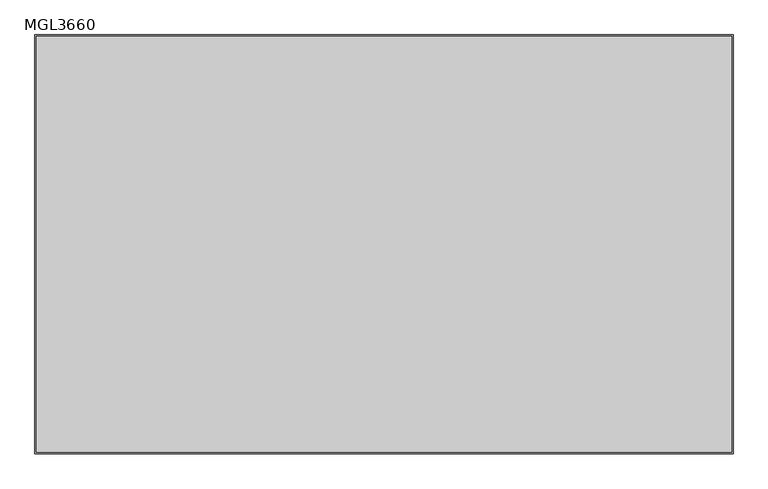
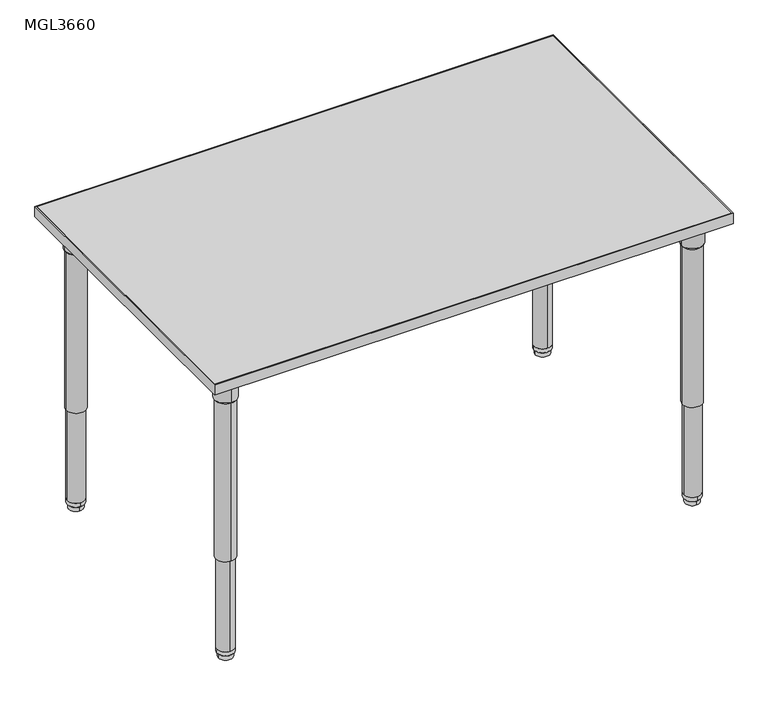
"""IFC4 building model written with IfcOpenShell, lengths in millimetres: furniture geometry, ERG-Mingle-Table-Rectangle : MGL3660."""

from ifc_helpers import new_model, si_unit, point, frame, frame_2d, origin, place, context, project, spatial, polyline, circle_curve, trimmed, segment, composite_curve, outline, extrude, source, transform, mapped, element, save
from ifc_brep_helpers import plane_surface, cylinder_surface, revolved_surface, advanced_brep


def mgl3660_9fdf70c8(model_context):
    return source(origin(), model_context, "Body", "SolidModel", [
        advanced_brep(
        [(655.7646842, -381.0, 802.9933069), (715.8353158, -381.0, 802.9933069), (685.8, -381.0, 802.9933069), (653.656117, -381.0, 806.7580481), (717.943883, -381.0, 806.7580481), (652.7206351, -381.0, 860.1631458), (718.8793649, -381.0, 860.1631458), (649.271083, -381.0, 866.5198315), (722.328917, -381.0, 866.5198315), (649.271083, -381.0, 879.2198315), (722.328917, -381.0, 879.2198315), (685.8, -381.0, 879.2198315)],
        [
            (0, 1, circle_curve(frame((685.8, -381.0, 802.9933069), z_axis=(0.0, 0.0, -1.0), x_axis=(1.0, 0.0, 0.0)), 30.0353158)),
            (1, 2),
            (2, 0),
            (1, 0, circle_curve(frame((685.8, -381.0, 802.9933069), z_axis=(0.0, 0.0, -1.0), x_axis=(1.0, 0.0, 0.0)), 30.0353158)),
            (3, 4, circle_curve(frame((685.8, -381.0, 806.7580481), z_axis=(0.0, 0.0, -1.0), x_axis=(1.0, 0.0, 0.0)), 32.143883)),
            (4, 1),
            (0, 3),
            (4, 3, circle_curve(frame((685.8, -381.0, 806.7580481), z_axis=(0.0, 0.0, -1.0), x_axis=(1.0, 0.0, 0.0)), 32.143883)),
            (5, 6, circle_curve(frame((685.8, -381.0, 860.1631458), z_axis=(0.0, 0.0, -1.0), x_axis=(1.0, 0.0, 0.0)), 33.0793649)),
            (6, 4),
            (3, 5),
            (6, 5, circle_curve(frame((685.8, -381.0, 860.1631458), z_axis=(0.0, 0.0, -1.0), x_axis=(1.0, 0.0, 0.0)), 33.0793649)),
            (7, 8, circle_curve(frame((685.8, -381.0, 866.5198315), z_axis=(0.0, 0.0, -1.0), x_axis=(1.0, 0.0, 0.0)), 36.528917)),
            (8, 6),
            (5, 7),
            (8, 7, circle_curve(frame((685.8, -381.0, 866.5198315), z_axis=(0.0, 0.0, -1.0), x_axis=(1.0, 0.0, 0.0)), 36.528917)),
            (9, 10, circle_curve(frame((685.8, -381.0, 879.2198315), z_axis=(0.0, 0.0, -1.0), x_axis=(1.0, 0.0, 0.0)), 36.528917)),
            (10, 8),
            (7, 9),
            (10, 9, circle_curve(frame((685.8, -381.0, 879.2198315), z_axis=(0.0, 0.0, -1.0), x_axis=(1.0, 0.0, 0.0)), 36.528917)),
            (11, 10),
            (9, 11),
        ],
        [
            plane_surface(frame((685.8, -381.0, 802.9933069), z_axis=(0.0, 0.0, -1.0), x_axis=(1.0, 0.0, 0.0))),
            revolved_surface(polyline([(715.8353158, -381.0, 802.9933069), (717.943883, -381.0, 806.7580481)]), (685.8, -381.0, 879.2198315), (0.0, 0.0, 1.0)),
            revolved_surface(polyline([(717.943883, -381.0, 806.7580481), (718.8793649, -381.0, 860.1631458)]), (685.8, -381.0, 879.2198315), (0.0, 0.0, 1.0)),
            revolved_surface(polyline([(718.8793649, -381.0, 860.1631458), (722.328917, -381.0, 866.5198315)]), (685.8, -381.0, 879.2198315), (0.0, 0.0, 1.0)),
            cylinder_surface(frame((685.8, -381.0, 879.2198315), z_axis=(0.0, 0.0, 1.0), x_axis=(1.0, 0.0, 0.0)), 36.528917),
            plane_surface(frame((685.8, -381.0, 879.2198315), z_axis=(0.0, 0.0, 1.0), x_axis=(1.0, 0.0, 0.0))),
        ],
        [
            (0, [[1, 2, 3]]),
            (0, [[4, -3, -2]]),
            (1, [[5, 6, -1, 7]]),
            (1, [[8, -7, -4, -6]]),
            (2, [[9, 10, -5, 11]]),
            (2, [[12, -11, -8, -10]]),
            (3, [[13, 14, -9, 15]]),
            (3, [[16, -15, -12, -14]]),
            (4, [[17, 18, -13, 19]]),
            (4, [[20, -19, -16, -18]]),
            (5, [[21, -17, 22]]),
            (5, [[-22, -20, -21]]),
        ],
    ),
        extrude(outline(composite_curve([segment(polyline([(731.673768, -298.4223426), (731.673768, -412.1483754)]), True, "CONTINUOUS"), segment(trimmed(circle_curve(frame_2d((715.798768, -412.1483754)), 15.875), [point((731.673768, -412.1483754))], [point((715.798768, -428.0233754))], False, "CARTESIAN"), True, "CONTINUOUS"), segment(polyline([(715.798768, -428.0233754), (602.0864205, -428.0233754)]), True, "CONTINUOUS"), segment(trimmed(circle_curve(frame_2d((602.0864205, -415.3233754)), 12.7), [point((602.0864205, -428.0233754))], [point((589.4491923, -414.0622394))], False, "CARTESIAN"), True, "CONTINUOUS"), segment(trimmed(circle_curve(frame_2d((731.9486077, -428.2830117)), 143.2072406), [point((589.4491923, -414.0622394))], [point((717.7111525, -285.7852622))], False, "CARTESIAN"), True, "CONTINUOUS"), segment(trimmed(circle_curve(frame_2d((718.973768, -298.4223426)), 12.7), [point((717.7111525, -285.7852622))], [point((731.673768, -298.4223426))], False, "CARTESIAN"), True, "CONTINUOUS")], self_intersect=False)), frame((0.0, 0.0, 879.2198315), z_axis=(0.0, 0.0, 1.0), x_axis=(1.0, 0.0, 0.0)), (0.0, 0.0, 1.0), 3.4301685),
        extrude(outline(composite_curve([segment(trimmed(circle_curve(frame_2d((685.8, -381.0)), 28.575), [point((714.375, -381.0))], [point((657.225, -381.0))], False, "CARTESIAN"), True, "CONTINUOUS"), segment(trimmed(circle_curve(frame_2d((685.8, -381.0)), 28.575), [point((657.225, -381.0))], [point((714.375, -381.0))], False, "CARTESIAN"), True, "CONTINUOUS")], self_intersect=False)), frame((0.0, 0.0, 310.7876979), z_axis=(0.0, 0.0, 1.0), x_axis=(1.0, 0.0, 0.0)), (0.0, 0.0, 1.0), 495.4089866),
        extrude(outline(composite_curve([segment(trimmed(circle_curve(frame_2d((685.8, -381.0)), 25.4), [point((711.2, -381.0))], [point((660.4, -381.0))], False, "CARTESIAN"), True, "CONTINUOUS"), segment(trimmed(circle_curve(frame_2d((685.8, -381.0)), 25.4), [point((660.4, -381.0))], [point((711.2, -381.0))], False, "CARTESIAN"), True, "CONTINUOUS")], self_intersect=False)), frame((0.0, 0.0, 28.9580435), z_axis=(0.0, 0.0, 1.0), x_axis=(1.0, 0.0, 0.0)), (0.0, 0.0, 1.0), 329.1049119),
        advanced_brep(
        [(685.8, -355.7649896, 28.9580185), (685.8, -406.2350104, 28.9580185), (685.8, -381.0, 28.9580185), (685.8, -355.900761, 16.3032949), (685.8, -406.099239, 16.3032949), (685.8, -357.4160619, 14.7291007), (685.8, -404.5839381, 14.7291007), (685.8, -359.8591422, 14.7291007), (685.8, -402.1408578, 14.7291007), (685.8, -360.0521336, 0.0), (685.8, -401.9478664, 0.0), (685.8, -381.0, 0.0)],
        [
            (0, 1, circle_curve(frame((685.8, -381.0, 28.9580185), z_axis=(0.0, 0.0, 1.0), x_axis=(0.0, -1.0, 0.0)), 25.2350104)),
            (1, 2),
            (2, 0),
            (1, 0, circle_curve(frame((685.8, -381.0, 28.9580185), z_axis=(0.0, 0.0, 1.0), x_axis=(0.0, -1.0, 0.0)), 25.2350104)),
            (3, 4, circle_curve(frame((685.8, -381.0, 16.3032949), z_axis=(0.0, 0.0, 1.0), x_axis=(0.0, -1.0, 0.0)), 25.099239)),
            (4, 1),
            (0, 3),
            (4, 3, circle_curve(frame((685.8, -381.0, 16.3032949), z_axis=(0.0, 0.0, 1.0), x_axis=(0.0, -1.0, 0.0)), 25.099239)),
            (5, 6, circle_curve(frame((685.8, -381.0, 14.7291007), z_axis=(0.0, 0.0, 1.0), x_axis=(0.0, -1.0, 0.0)), 23.5839381)),
            (6, 4),
            (3, 5),
            (6, 5, circle_curve(frame((685.8, -381.0, 14.7291007), z_axis=(0.0, 0.0, 1.0), x_axis=(0.0, -1.0, 0.0)), 23.5839381)),
            (7, 8, circle_curve(frame((685.8, -381.0, 14.7291007), z_axis=(0.0, 0.0, 1.0), x_axis=(0.0, -1.0, 0.0)), 21.1408578)),
            (8, 6),
            (5, 7),
            (8, 7, circle_curve(frame((685.8, -381.0, 14.7291007), z_axis=(0.0, 0.0, 1.0), x_axis=(0.0, -1.0, 0.0)), 21.1408578)),
            (9, 10, circle_curve(frame((685.8, -381.0, 0.0), z_axis=(0.0, 0.0, 1.0), x_axis=(0.0, -1.0, 0.0)), 20.9478664)),
            (10, 8),
            (7, 9),
            (10, 9, circle_curve(frame((685.8, -381.0, 0.0), z_axis=(0.0, 0.0, 1.0), x_axis=(0.0, -1.0, 0.0)), 20.9478664)),
            (11, 10),
            (9, 11),
        ],
        [
            plane_surface(frame((685.8, -381.0, 28.9580185), z_axis=(0.0, 0.0, 1.0), x_axis=(0.0, -1.0, 0.0))),
            revolved_surface(polyline([(685.8, -406.2350104, 28.9580185), (685.8, -406.099239, 16.3032949)]), (685.8, -381.0, 0.0), (0.0, 0.0, -1.0)),
            revolved_surface(polyline([(685.8, -406.099239, 16.3032949), (685.8, -404.5839381, 14.7291007)]), (685.8, -381.0, 0.0), (0.0, 0.0, -1.0)),
            plane_surface(frame((685.8, -381.0, 14.7291007), z_axis=(0.0, 0.0, -1.0), x_axis=(0.0, -1.0, 0.0))),
            revolved_surface(polyline([(685.8, -402.1408578, 14.7291007), (685.8, -401.9478664, 0.0)]), (685.8, -381.0, 0.0), (0.0, 0.0, -1.0)),
            plane_surface(frame((685.8, -381.0, 0.0), z_axis=(0.0, 0.0, -1.0), x_axis=(0.0, -1.0, 0.0))),
        ],
        [
            (0, [[1, 2, 3]]),
            (0, [[4, -3, -2]]),
            (1, [[5, 6, -1, 7]]),
            (1, [[8, -7, -4, -6]]),
            (2, [[9, 10, -5, 11]]),
            (2, [[12, -11, -8, -10]]),
            (3, [[13, 14, -9, 15]]),
            (3, [[16, -15, -12, -14]]),
            (4, [[17, 18, -13, 19]]),
            (4, [[20, -19, -16, -18]]),
            (5, [[21, -17, 22]]),
            (5, [[-22, -20, -21]]),
        ],
    ),
        advanced_brep(
        [(-685.8, -350.9646842, 802.9933069), (-685.8, -411.0353158, 802.9933069), (-685.8, -381.0, 802.9933069), (-685.8, -348.856117, 806.7580481), (-685.8, -413.143883, 806.7580481), (-685.8, -347.9206351, 860.1631458), (-685.8, -414.0793649, 860.1631458), (-685.8, -344.471083, 866.5198315), (-685.8, -417.528917, 866.5198315), (-685.8, -344.471083, 879.2198315), (-685.8, -417.528917, 879.2198315), (-685.8, -381.0, 879.2198315)],
        [
            (0, 1, circle_curve(frame((-685.8, -381.0, 802.9933069), z_axis=(0.0, 0.0, -1.0), x_axis=(0.0, -1.0, 0.0)), 30.0353158)),
            (1, 2),
            (2, 0),
            (1, 0, circle_curve(frame((-685.8, -381.0, 802.9933069), z_axis=(0.0, 0.0, -1.0), x_axis=(0.0, -1.0, 0.0)), 30.0353158)),
            (3, 4, circle_curve(frame((-685.8, -381.0, 806.7580481), z_axis=(0.0, 0.0, -1.0), x_axis=(0.0, -1.0, 0.0)), 32.143883)),
            (4, 1),
            (0, 3),
            (4, 3, circle_curve(frame((-685.8, -381.0, 806.7580481), z_axis=(0.0, 0.0, -1.0), x_axis=(0.0, -1.0, 0.0)), 32.143883)),
            (5, 6, circle_curve(frame((-685.8, -381.0, 860.1631458), z_axis=(0.0, 0.0, -1.0), x_axis=(0.0, -1.0, 0.0)), 33.0793649)),
            (6, 4),
            (3, 5),
            (6, 5, circle_curve(frame((-685.8, -381.0, 860.1631458), z_axis=(0.0, 0.0, -1.0), x_axis=(0.0, -1.0, 0.0)), 33.0793649)),
            (7, 8, circle_curve(frame((-685.8, -381.0, 866.5198315), z_axis=(0.0, 0.0, -1.0), x_axis=(0.0, -1.0, 0.0)), 36.528917)),
            (8, 6),
            (5, 7),
            (8, 7, circle_curve(frame((-685.8, -381.0, 866.5198315), z_axis=(0.0, 0.0, -1.0), x_axis=(0.0, -1.0, 0.0)), 36.528917)),
            (9, 10, circle_curve(frame((-685.8, -381.0, 879.2198315), z_axis=(0.0, 0.0, -1.0), x_axis=(0.0, -1.0, 0.0)), 36.528917)),
            (10, 8),
            (7, 9),
            (10, 9, circle_curve(frame((-685.8, -381.0, 879.2198315), z_axis=(0.0, 0.0, -1.0), x_axis=(0.0, -1.0, 0.0)), 36.528917)),
            (11, 10),
            (9, 11),
        ],
        [
            plane_surface(frame((-685.8, -381.0, 802.9933069), z_axis=(0.0, 0.0, -1.0), x_axis=(0.0, -1.0, 0.0))),
            revolved_surface(polyline([(-685.8, -411.0353158, 802.9933069), (-685.8, -413.143883, 806.7580481)]), (-685.8, -381.0, 879.2198315), (0.0, 0.0, 1.0)),
            revolved_surface(polyline([(-685.8, -413.143883, 806.7580481), (-685.8, -414.0793649, 860.1631458)]), (-685.8, -381.0, 879.2198315), (0.0, 0.0, 1.0)),
            revolved_surface(polyline([(-685.8, -414.0793649, 860.1631458), (-685.8, -417.528917, 866.5198315)]), (-685.8, -381.0, 879.2198315), (0.0, 0.0, 1.0)),
            cylinder_surface(frame((-685.8, -381.0, 879.2198315), z_axis=(0.0, 0.0, 1.0), x_axis=(0.0, -1.0, 0.0)), 36.528917),
            plane_surface(frame((-685.8, -381.0, 879.2198315), z_axis=(0.0, 0.0, 1.0), x_axis=(0.0, -1.0, 0.0))),
        ],
        [
            (0, [[1, 2, 3]]),
            (0, [[4, -3, -2]]),
            (1, [[5, 6, -1, 7]]),
            (1, [[8, -7, -4, -6]]),
            (2, [[9, 10, -5, 11]]),
            (2, [[12, -11, -8, -10]]),
            (3, [[13, 14, -9, 15]]),
            (3, [[16, -15, -12, -14]]),
            (4, [[17, 18, -13, 19]]),
            (4, [[20, -19, -16, -18]]),
            (5, [[21, -17, 22]]),
            (5, [[-22, -20, -21]]),
        ],
    ),
        extrude(outline(composite_curve([segment(polyline([(-603.2223426, -426.873768), (-716.9483754, -426.873768)]), True, "CONTINUOUS"), segment(trimmed(circle_curve(frame_2d((-716.9483754, -410.998768)), 15.875), [point((-716.9483754, -426.873768))], [point((-732.8233754, -410.998768))], False, "CARTESIAN"), True, "CONTINUOUS"), segment(polyline([(-732.8233754, -410.998768), (-732.8233754, -297.2864205)]), True, "CONTINUOUS"), segment(trimmed(circle_curve(frame_2d((-720.1233754, -297.2864205)), 12.7), [point((-732.8233754, -297.2864205))], [point((-718.8622394, -284.6491923))], False, "CARTESIAN"), True, "CONTINUOUS"), segment(trimmed(circle_curve(frame_2d((-733.0830117, -427.1486077)), 143.2072406), [point((-718.8622394, -284.6491923))], [point((-590.5852622, -412.9111525))], False, "CARTESIAN"), True, "CONTINUOUS"), segment(trimmed(circle_curve(frame_2d((-603.2223426, -414.173768)), 12.7), [point((-590.5852622, -412.9111525))], [point((-603.2223426, -426.873768))], False, "CARTESIAN"), True, "CONTINUOUS")], self_intersect=False)), frame((0.0, 0.0, 879.2198315), z_axis=(0.0, 0.0, 1.0), x_axis=(1.0, 0.0, 0.0)), (0.0, 0.0, 1.0), 3.4301685),
        extrude(outline(composite_curve([segment(trimmed(circle_curve(frame_2d((-685.8, -381.0)), 28.575), [point((-685.8, -409.575))], [point((-685.8, -352.425))], False, "CARTESIAN"), True, "CONTINUOUS"), segment(trimmed(circle_curve(frame_2d((-685.8, -381.0)), 28.575), [point((-685.8, -352.425))], [point((-685.8, -409.575))], False, "CARTESIAN"), True, "CONTINUOUS")], self_intersect=False)), frame((0.0, 0.0, 310.7876979), z_axis=(0.0, 0.0, 1.0), x_axis=(1.0, 0.0, 0.0)), (0.0, 0.0, 1.0), 495.4089866),
        extrude(outline(composite_curve([segment(trimmed(circle_curve(frame_2d((-685.8, -381.0)), 25.4), [point((-685.8, -406.4))], [point((-685.8, -355.6))], False, "CARTESIAN"), True, "CONTINUOUS"), segment(trimmed(circle_curve(frame_2d((-685.8, -381.0)), 25.4), [point((-685.8, -355.6))], [point((-685.8, -406.4))], False, "CARTESIAN"), True, "CONTINUOUS")], self_intersect=False)), frame((0.0, 0.0, 28.9580435), z_axis=(0.0, 0.0, 1.0), x_axis=(1.0, 0.0, 0.0)), (0.0, 0.0, 1.0), 329.1049119),
        advanced_brep(
        [(-660.5649896, -381.0, 28.9580185), (-711.0350104, -381.0, 28.9580185), (-685.8, -381.0, 28.9580185), (-660.700761, -381.0, 16.3032949), (-710.899239, -381.0, 16.3032949), (-662.2160619, -381.0, 14.7291007), (-709.3839381, -381.0, 14.7291007), (-664.6591422, -381.0, 14.7291007), (-706.9408578, -381.0, 14.7291007), (-664.8521336, -381.0, 0.0), (-706.7478664, -381.0, 0.0), (-685.8, -381.0, 0.0)],
        [
            (0, 1, circle_curve(frame((-685.8, -381.0, 28.9580185), z_axis=(0.0, 0.0, 1.0), x_axis=(-1.0, 0.0, 0.0)), 25.2350104)),
            (1, 2),
            (2, 0),
            (1, 0, circle_curve(frame((-685.8, -381.0, 28.9580185), z_axis=(0.0, 0.0, 1.0), x_axis=(-1.0, 0.0, 0.0)), 25.2350104)),
            (3, 4, circle_curve(frame((-685.8, -381.0, 16.3032949), z_axis=(0.0, 0.0, 1.0), x_axis=(-1.0, 0.0, 0.0)), 25.099239)),
            (4, 1),
            (0, 3),
            (4, 3, circle_curve(frame((-685.8, -381.0, 16.3032949), z_axis=(0.0, 0.0, 1.0), x_axis=(-1.0, 0.0, 0.0)), 25.099239)),
            (5, 6, circle_curve(frame((-685.8, -381.0, 14.7291007), z_axis=(0.0, 0.0, 1.0), x_axis=(-1.0, 0.0, 0.0)), 23.5839381)),
            (6, 4),
            (3, 5),
            (6, 5, circle_curve(frame((-685.8, -381.0, 14.7291007), z_axis=(0.0, 0.0, 1.0), x_axis=(-1.0, 0.0, 0.0)), 23.5839381)),
            (7, 8, circle_curve(frame((-685.8, -381.0, 14.7291007), z_axis=(0.0, 0.0, 1.0), x_axis=(-1.0, 0.0, 0.0)), 21.1408578)),
            (8, 6),
            (5, 7),
            (8, 7, circle_curve(frame((-685.8, -381.0, 14.7291007), z_axis=(0.0, 0.0, 1.0), x_axis=(-1.0, 0.0, 0.0)), 21.1408578)),
            (9, 10, circle_curve(frame((-685.8, -381.0, 0.0), z_axis=(0.0, 0.0, 1.0), x_axis=(-1.0, 0.0, 0.0)), 20.9478664)),
            (10, 8),
            (7, 9),
            (10, 9, circle_curve(frame((-685.8, -381.0, 0.0), z_axis=(0.0, 0.0, 1.0), x_axis=(-1.0, 0.0, 0.0)), 20.9478664)),
            (11, 10),
            (9, 11),
        ],
        [
            plane_surface(frame((-685.8, -381.0, 28.9580185), z_axis=(0.0, 0.0, 1.0), x_axis=(-1.0, 0.0, 0.0))),
            revolved_surface(polyline([(-711.0350104, -381.0, 28.9580185), (-710.899239, -381.0, 16.3032949)]), (-685.8, -381.0, 0.0), (0.0, 0.0, -1.0)),
            revolved_surface(polyline([(-710.899239, -381.0, 16.3032949), (-709.3839381, -381.0, 14.7291007)]), (-685.8, -381.0, 0.0), (0.0, 0.0, -1.0)),
            plane_surface(frame((-685.8, -381.0, 14.7291007), z_axis=(0.0, 0.0, -1.0), x_axis=(-1.0, 0.0, 0.0))),
            revolved_surface(polyline([(-706.9408578, -381.0, 14.7291007), (-706.7478664, -381.0, 0.0)]), (-685.8, -381.0, 0.0), (0.0, 0.0, -1.0)),
            plane_surface(frame((-685.8, -381.0, 0.0), z_axis=(0.0, 0.0, -1.0), x_axis=(-1.0, 0.0, 0.0))),
        ],
        [
            (0, [[1, 2, 3]]),
            (0, [[4, -3, -2]]),
            (1, [[5, 6, -1, 7]]),
            (1, [[8, -7, -4, -6]]),
            (2, [[9, 10, -5, 11]]),
            (2, [[12, -11, -8, -10]]),
            (3, [[13, 14, -9, 15]]),
            (3, [[16, -15, -12, -14]]),
            (4, [[17, 18, -13, 19]]),
            (4, [[20, -19, -16, -18]]),
            (5, [[21, -17, 22]]),
            (5, [[-22, -20, -21]]),
        ],
    ),
        advanced_brep(
        [(685.8, 350.9646842, 802.9933069), (685.8, 411.0353158, 802.9933069), (685.8, 381.0, 802.9933069), (685.8, 348.856117, 806.7580481), (685.8, 413.143883, 806.7580481), (685.8, 347.9206351, 860.1631458), (685.8, 414.0793649, 860.1631458), (685.8, 344.471083, 866.5198315), (685.8, 417.528917, 866.5198315), (685.8, 344.471083, 879.2198315), (685.8, 417.528917, 879.2198315), (685.8, 381.0, 879.2198315)],
        [
            (0, 1, circle_curve(frame((685.8, 381.0, 802.9933069), z_axis=(0.0, 0.0, -1.0), x_axis=(0.0, 1.0, 0.0)), 30.0353158)),
            (1, 2),
            (2, 0),
            (1, 0, circle_curve(frame((685.8, 381.0, 802.9933069), z_axis=(0.0, 0.0, -1.0), x_axis=(0.0, 1.0, 0.0)), 30.0353158)),
            (3, 4, circle_curve(frame((685.8, 381.0, 806.7580481), z_axis=(0.0, 0.0, -1.0), x_axis=(0.0, 1.0, 0.0)), 32.143883)),
            (4, 1),
            (0, 3),
            (4, 3, circle_curve(frame((685.8, 381.0, 806.7580481), z_axis=(0.0, 0.0, -1.0), x_axis=(0.0, 1.0, 0.0)), 32.143883)),
            (5, 6, circle_curve(frame((685.8, 381.0, 860.1631458), z_axis=(0.0, 0.0, -1.0), x_axis=(0.0, 1.0, 0.0)), 33.0793649)),
            (6, 4),
            (3, 5),
            (6, 5, circle_curve(frame((685.8, 381.0, 860.1631458), z_axis=(0.0, 0.0, -1.0), x_axis=(0.0, 1.0, 0.0)), 33.0793649)),
            (7, 8, circle_curve(frame((685.8, 381.0, 866.5198315), z_axis=(0.0, 0.0, -1.0), x_axis=(0.0, 1.0, 0.0)), 36.528917)),
            (8, 6),
            (5, 7),
            (8, 7, circle_curve(frame((685.8, 381.0, 866.5198315), z_axis=(0.0, 0.0, -1.0), x_axis=(0.0, 1.0, 0.0)), 36.528917)),
            (9, 10, circle_curve(frame((685.8, 381.0, 879.2198315), z_axis=(0.0, 0.0, -1.0), x_axis=(0.0, 1.0, 0.0)), 36.528917)),
            (10, 8),
            (7, 9),
            (10, 9, circle_curve(frame((685.8, 381.0, 879.2198315), z_axis=(0.0, 0.0, -1.0), x_axis=(0.0, 1.0, 0.0)), 36.528917)),
            (11, 10),
            (9, 11),
        ],
        [
            plane_surface(frame((685.8, 381.0, 802.9933069), z_axis=(0.0, 0.0, -1.0), x_axis=(0.0, 1.0, 0.0))),
            revolved_surface(polyline([(685.8, 411.0353158, 802.9933069), (685.8, 413.143883, 806.7580481)]), (685.8, 381.0, 879.2198315), (0.0, 0.0, 1.0)),
            revolved_surface(polyline([(685.8, 413.143883, 806.7580481), (685.8, 414.0793649, 860.1631458)]), (685.8, 381.0, 879.2198315), (0.0, 0.0, 1.0)),
            revolved_surface(polyline([(685.8, 414.0793649, 860.1631458), (685.8, 417.528917, 866.5198315)]), (685.8, 381.0, 879.2198315), (0.0, 0.0, 1.0)),
            cylinder_surface(frame((685.8, 381.0, 879.2198315), z_axis=(0.0, 0.0, 1.0), x_axis=(0.0, 1.0, 0.0)), 36.528917),
            plane_surface(frame((685.8, 381.0, 879.2198315), z_axis=(0.0, 0.0, 1.0), x_axis=(0.0, 1.0, 0.0))),
        ],
        [
            (0, [[1, 2, 3]]),
            (0, [[4, -3, -2]]),
            (1, [[5, 6, -1, 7]]),
            (1, [[8, -7, -4, -6]]),
            (2, [[9, 10, -5, 11]]),
            (2, [[12, -11, -8, -10]]),
            (3, [[13, 14, -9, 15]]),
            (3, [[16, -15, -12, -14]]),
            (4, [[17, 18, -13, 19]]),
            (4, [[20, -19, -16, -18]]),
            (5, [[21, -17, 22]]),
            (5, [[-22, -20, -21]]),
        ],
    ),
        extrude(outline(composite_curve([segment(polyline([(603.2223426, 426.873768), (716.9483754, 426.873768)]), True, "CONTINUOUS"), segment(trimmed(circle_curve(frame_2d((716.9483754, 410.998768)), 15.875), [point((716.9483754, 426.873768))], [point((732.8233754, 410.998768))], False, "CARTESIAN"), True, "CONTINUOUS"), segment(polyline([(732.8233754, 410.998768), (732.8233754, 297.2864205)]), True, "CONTINUOUS"), segment(trimmed(circle_curve(frame_2d((720.1233754, 297.2864205)), 12.7), [point((732.8233754, 297.2864205))], [point((718.8622394, 284.6491923))], False, "CARTESIAN"), True, "CONTINUOUS"), segment(trimmed(circle_curve(frame_2d((733.0830117, 427.1486077)), 143.2072406), [point((718.8622394, 284.6491923))], [point((590.5852622, 412.9111525))], False, "CARTESIAN"), True, "CONTINUOUS"), segment(trimmed(circle_curve(frame_2d((603.2223426, 414.173768)), 12.7), [point((590.5852622, 412.9111525))], [point((603.2223426, 426.873768))], False, "CARTESIAN"), True, "CONTINUOUS")], self_intersect=False)), frame((0.0, 0.0, 879.2198315), z_axis=(0.0, 0.0, 1.0), x_axis=(1.0, 0.0, 0.0)), (0.0, 0.0, 1.0), 3.4301685),
        extrude(outline(composite_curve([segment(trimmed(circle_curve(frame_2d((685.8, 381.0)), 28.575), [point((685.8, 409.575))], [point((685.8, 352.425))], False, "CARTESIAN"), True, "CONTINUOUS"), segment(trimmed(circle_curve(frame_2d((685.8, 381.0)), 28.575), [point((685.8, 352.425))], [point((685.8, 409.575))], False, "CARTESIAN"), True, "CONTINUOUS")], self_intersect=False)), frame((0.0, 0.0, 310.7876979), z_axis=(0.0, 0.0, 1.0), x_axis=(1.0, 0.0, 0.0)), (0.0, 0.0, 1.0), 495.4089866),
        extrude(outline(composite_curve([segment(trimmed(circle_curve(frame_2d((685.8, 381.0)), 25.4), [point((685.8, 406.4))], [point((685.8, 355.6))], False, "CARTESIAN"), True, "CONTINUOUS"), segment(trimmed(circle_curve(frame_2d((685.8, 381.0)), 25.4), [point((685.8, 355.6))], [point((685.8, 406.4))], False, "CARTESIAN"), True, "CONTINUOUS")], self_intersect=False)), frame((0.0, 0.0, 28.9580435), z_axis=(0.0, 0.0, 1.0), x_axis=(1.0, 0.0, 0.0)), (0.0, 0.0, 1.0), 329.1049119),
        advanced_brep(
        [(660.5649896, 381.0, 28.9580185), (711.0350104, 381.0, 28.9580185), (685.8, 381.0, 28.9580185), (660.700761, 381.0, 16.3032949), (710.899239, 381.0, 16.3032949), (662.2160619, 381.0, 14.7291007), (709.3839381, 381.0, 14.7291007), (664.6591422, 381.0, 14.7291007), (706.9408578, 381.0, 14.7291007), (664.8521336, 381.0, 0.0), (706.7478664, 381.0, 0.0), (685.8, 381.0, 0.0)],
        [
            (0, 1, circle_curve(frame((685.8, 381.0, 28.9580185), z_axis=(0.0, 0.0, 1.0), x_axis=(1.0, 0.0, 0.0)), 25.2350104)),
            (1, 2),
            (2, 0),
            (1, 0, circle_curve(frame((685.8, 381.0, 28.9580185), z_axis=(0.0, 0.0, 1.0), x_axis=(1.0, 0.0, 0.0)), 25.2350104)),
            (3, 4, circle_curve(frame((685.8, 381.0, 16.3032949), z_axis=(0.0, 0.0, 1.0), x_axis=(1.0, 0.0, 0.0)), 25.099239)),
            (4, 1),
            (0, 3),
            (4, 3, circle_curve(frame((685.8, 381.0, 16.3032949), z_axis=(0.0, 0.0, 1.0), x_axis=(1.0, 0.0, 0.0)), 25.099239)),
            (5, 6, circle_curve(frame((685.8, 381.0, 14.7291007), z_axis=(0.0, 0.0, 1.0), x_axis=(1.0, 0.0, 0.0)), 23.5839381)),
            (6, 4),
            (3, 5),
            (6, 5, circle_curve(frame((685.8, 381.0, 14.7291007), z_axis=(0.0, 0.0, 1.0), x_axis=(1.0, 0.0, 0.0)), 23.5839381)),
            (7, 8, circle_curve(frame((685.8, 381.0, 14.7291007), z_axis=(0.0, 0.0, 1.0), x_axis=(1.0, 0.0, 0.0)), 21.1408578)),
            (8, 6),
            (5, 7),
            (8, 7, circle_curve(frame((685.8, 381.0, 14.7291007), z_axis=(0.0, 0.0, 1.0), x_axis=(1.0, 0.0, 0.0)), 21.1408578)),
            (9, 10, circle_curve(frame((685.8, 381.0, 0.0), z_axis=(0.0, 0.0, 1.0), x_axis=(1.0, 0.0, 0.0)), 20.9478664)),
            (10, 8),
            (7, 9),
            (10, 9, circle_curve(frame((685.8, 381.0, 0.0), z_axis=(0.0, 0.0, 1.0), x_axis=(1.0, 0.0, 0.0)), 20.9478664)),
            (11, 10),
            (9, 11),
        ],
        [
            plane_surface(frame((685.8, 381.0, 28.9580185), z_axis=(0.0, 0.0, 1.0), x_axis=(1.0, 0.0, 0.0))),
            revolved_surface(polyline([(711.0350104, 381.0, 28.9580185), (710.899239, 381.0, 16.3032949)]), (685.8, 381.0, 0.0), (0.0, 0.0, -1.0)),
            revolved_surface(polyline([(710.899239, 381.0, 16.3032949), (709.3839381, 381.0, 14.7291007)]), (685.8, 381.0, 0.0), (0.0, 0.0, -1.0)),
            plane_surface(frame((685.8, 381.0, 14.7291007), z_axis=(0.0, 0.0, -1.0), x_axis=(1.0, 0.0, 0.0))),
            revolved_surface(polyline([(706.9408578, 381.0, 14.7291007), (706.7478664, 381.0, 0.0)]), (685.8, 381.0, 0.0), (0.0, 0.0, -1.0)),
            plane_surface(frame((685.8, 381.0, 0.0), z_axis=(0.0, 0.0, -1.0), x_axis=(1.0, 0.0, 0.0))),
        ],
        [
            (0, [[1, 2, 3]]),
            (0, [[4, -3, -2]]),
            (1, [[5, 6, -1, 7]]),
            (1, [[8, -7, -4, -6]]),
            (2, [[9, 10, -5, 11]]),
            (2, [[12, -11, -8, -10]]),
            (3, [[13, 14, -9, 15]]),
            (3, [[16, -15, -12, -14]]),
            (4, [[17, 18, -13, 19]]),
            (4, [[20, -19, -16, -18]]),
            (5, [[21, -17, 22]]),
            (5, [[-22, -20, -21]]),
        ],
    ),
        advanced_brep(
        [(-655.7646842, 381.0, 802.9933069), (-715.8353158, 381.0, 802.9933069), (-685.8, 381.0, 802.9933069), (-653.656117, 381.0, 806.7580481), (-717.943883, 381.0, 806.7580481), (-652.7206351, 381.0, 860.1631458), (-718.8793649, 381.0, 860.1631458), (-649.271083, 381.0, 866.5198315), (-722.328917, 381.0, 866.5198315), (-649.271083, 381.0, 879.2198315), (-722.328917, 381.0, 879.2198315), (-685.8, 381.0, 879.2198315)],
        [
            (0, 1, circle_curve(frame((-685.8, 381.0, 802.9933069), z_axis=(0.0, 0.0, -1.0), x_axis=(-1.0, 0.0, 0.0)), 30.0353158)),
            (1, 2),
            (2, 0),
            (1, 0, circle_curve(frame((-685.8, 381.0, 802.9933069), z_axis=(0.0, 0.0, -1.0), x_axis=(-1.0, 0.0, 0.0)), 30.0353158)),
            (3, 4, circle_curve(frame((-685.8, 381.0, 806.7580481), z_axis=(0.0, 0.0, -1.0), x_axis=(-1.0, 0.0, 0.0)), 32.143883)),
            (4, 1),
            (0, 3),
            (4, 3, circle_curve(frame((-685.8, 381.0, 806.7580481), z_axis=(0.0, 0.0, -1.0), x_axis=(-1.0, 0.0, 0.0)), 32.143883)),
            (5, 6, circle_curve(frame((-685.8, 381.0, 860.1631458), z_axis=(0.0, 0.0, -1.0), x_axis=(-1.0, 0.0, 0.0)), 33.0793649)),
            (6, 4),
            (3, 5),
            (6, 5, circle_curve(frame((-685.8, 381.0, 860.1631458), z_axis=(0.0, 0.0, -1.0), x_axis=(-1.0, 0.0, 0.0)), 33.0793649)),
            (7, 8, circle_curve(frame((-685.8, 381.0, 866.5198315), z_axis=(0.0, 0.0, -1.0), x_axis=(-1.0, 0.0, 0.0)), 36.528917)),
            (8, 6),
            (5, 7),
            (8, 7, circle_curve(frame((-685.8, 381.0, 866.5198315), z_axis=(0.0, 0.0, -1.0), x_axis=(-1.0, 0.0, 0.0)), 36.528917)),
            (9, 10, circle_curve(frame((-685.8, 381.0, 879.2198315), z_axis=(0.0, 0.0, -1.0), x_axis=(-1.0, 0.0, 0.0)), 36.528917)),
            (10, 8),
            (7, 9),
            (10, 9, circle_curve(frame((-685.8, 381.0, 879.2198315), z_axis=(0.0, 0.0, -1.0), x_axis=(-1.0, 0.0, 0.0)), 36.528917)),
            (11, 10),
            (9, 11),
        ],
        [
            plane_surface(frame((-685.8, 381.0, 802.9933069), z_axis=(0.0, 0.0, -1.0), x_axis=(-1.0, 0.0, 0.0))),
            revolved_surface(polyline([(-715.8353158, 381.0, 802.9933069), (-717.943883, 381.0, 806.7580481)]), (-685.8, 381.0, 879.2198315), (0.0, 0.0, 1.0)),
            revolved_surface(polyline([(-717.943883, 381.0, 806.7580481), (-718.8793649, 381.0, 860.1631458)]), (-685.8, 381.0, 879.2198315), (0.0, 0.0, 1.0)),
            revolved_surface(polyline([(-718.8793649, 381.0, 860.1631458), (-722.328917, 381.0, 866.5198315)]), (-685.8, 381.0, 879.2198315), (0.0, 0.0, 1.0)),
            cylinder_surface(frame((-685.8, 381.0, 879.2198315), z_axis=(0.0, 0.0, 1.0), x_axis=(-1.0, 0.0, 0.0)), 36.528917),
            plane_surface(frame((-685.8, 381.0, 879.2198315), z_axis=(0.0, 0.0, 1.0), x_axis=(-1.0, 0.0, 0.0))),
        ],
        [
            (0, [[1, 2, 3]]),
            (0, [[4, -3, -2]]),
            (1, [[5, 6, -1, 7]]),
            (1, [[8, -7, -4, -6]]),
            (2, [[9, 10, -5, 11]]),
            (2, [[12, -11, -8, -10]]),
            (3, [[13, 14, -9, 15]]),
            (3, [[16, -15, -12, -14]]),
            (4, [[17, 18, -13, 19]]),
            (4, [[20, -19, -16, -18]]),
            (5, [[21, -17, 22]]),
            (5, [[-22, -20, -21]]),
        ],
    ),
        extrude(outline(composite_curve([segment(polyline([(-731.673768, 298.4223426), (-731.673768, 412.1483754)]), True, "CONTINUOUS"), segment(trimmed(circle_curve(frame_2d((-715.798768, 412.1483754)), 15.875), [point((-731.673768, 412.1483754))], [point((-715.798768, 428.0233754))], False, "CARTESIAN"), True, "CONTINUOUS"), segment(polyline([(-715.798768, 428.0233754), (-602.0864205, 428.0233754)]), True, "CONTINUOUS"), segment(trimmed(circle_curve(frame_2d((-602.0864205, 415.3233754)), 12.7), [point((-602.0864205, 428.0233754))], [point((-589.4491923, 414.0622394))], False, "CARTESIAN"), True, "CONTINUOUS"), segment(trimmed(circle_curve(frame_2d((-731.9486077, 428.2830117)), 143.2072406), [point((-589.4491923, 414.0622394))], [point((-717.7111525, 285.7852622))], False, "CARTESIAN"), True, "CONTINUOUS"), segment(trimmed(circle_curve(frame_2d((-718.973768, 298.4223426)), 12.7), [point((-717.7111525, 285.7852622))], [point((-731.673768, 298.4223426))], False, "CARTESIAN"), True, "CONTINUOUS")], self_intersect=False)), frame((0.0, 0.0, 879.2198315), z_axis=(0.0, 0.0, 1.0), x_axis=(1.0, 0.0, 0.0)), (0.0, 0.0, 1.0), 3.4301685),
        extrude(outline(composite_curve([segment(trimmed(circle_curve(frame_2d((-685.8, 381.0)), 28.575), [point((-714.375, 381.0))], [point((-657.225, 381.0))], False, "CARTESIAN"), True, "CONTINUOUS"), segment(trimmed(circle_curve(frame_2d((-685.8, 381.0)), 28.575), [point((-657.225, 381.0))], [point((-714.375, 381.0))], False, "CARTESIAN"), True, "CONTINUOUS")], self_intersect=False)), frame((0.0, 0.0, 310.7876979), z_axis=(0.0, 0.0, 1.0), x_axis=(1.0, 0.0, 0.0)), (0.0, 0.0, 1.0), 495.4089866),
        extrude(outline(composite_curve([segment(trimmed(circle_curve(frame_2d((-685.8, 381.0)), 25.4), [point((-711.2, 381.0))], [point((-660.4, 381.0))], False, "CARTESIAN"), True, "CONTINUOUS"), segment(trimmed(circle_curve(frame_2d((-685.8, 381.0)), 25.4), [point((-660.4, 381.0))], [point((-711.2, 381.0))], False, "CARTESIAN"), True, "CONTINUOUS")], self_intersect=False)), frame((0.0, 0.0, 28.9580435), z_axis=(0.0, 0.0, 1.0), x_axis=(1.0, 0.0, 0.0)), (0.0, 0.0, 1.0), 329.1049119),
        advanced_brep(
        [(-685.8, 355.7649896, 28.9580185), (-685.8, 406.2350104, 28.9580185), (-685.8, 381.0, 28.9580185), (-685.8, 355.900761, 16.3032949), (-685.8, 406.099239, 16.3032949), (-685.8, 357.4160619, 14.7291007), (-685.8, 404.5839381, 14.7291007), (-685.8, 359.8591422, 14.7291007), (-685.8, 402.1408578, 14.7291007), (-685.8, 360.0521336, 0.0), (-685.8, 401.9478664, 0.0), (-685.8, 381.0, 0.0)],
        [
            (0, 1, circle_curve(frame((-685.8, 381.0, 28.9580185), z_axis=(0.0, 0.0, 1.0), x_axis=(0.0, 1.0, 0.0)), 25.2350104)),
            (1, 2),
            (2, 0),
            (1, 0, circle_curve(frame((-685.8, 381.0, 28.9580185), z_axis=(0.0, 0.0, 1.0), x_axis=(0.0, 1.0, 0.0)), 25.2350104)),
            (3, 4, circle_curve(frame((-685.8, 381.0, 16.3032949), z_axis=(0.0, 0.0, 1.0), x_axis=(0.0, 1.0, 0.0)), 25.099239)),
            (4, 1),
            (0, 3),
            (4, 3, circle_curve(frame((-685.8, 381.0, 16.3032949), z_axis=(0.0, 0.0, 1.0), x_axis=(0.0, 1.0, 0.0)), 25.099239)),
            (5, 6, circle_curve(frame((-685.8, 381.0, 14.7291007), z_axis=(0.0, 0.0, 1.0), x_axis=(0.0, 1.0, 0.0)), 23.5839381)),
            (6, 4),
            (3, 5),
            (6, 5, circle_curve(frame((-685.8, 381.0, 14.7291007), z_axis=(0.0, 0.0, 1.0), x_axis=(0.0, 1.0, 0.0)), 23.5839381)),
            (7, 8, circle_curve(frame((-685.8, 381.0, 14.7291007), z_axis=(0.0, 0.0, 1.0), x_axis=(0.0, 1.0, 0.0)), 21.1408578)),
            (8, 6),
            (5, 7),
            (8, 7, circle_curve(frame((-685.8, 381.0, 14.7291007), z_axis=(0.0, 0.0, 1.0), x_axis=(0.0, 1.0, 0.0)), 21.1408578)),
            (9, 10, circle_curve(frame((-685.8, 381.0, 0.0), z_axis=(0.0, 0.0, 1.0), x_axis=(0.0, 1.0, 0.0)), 20.9478664)),
            (10, 8),
            (7, 9),
            (10, 9, circle_curve(frame((-685.8, 381.0, 0.0), z_axis=(0.0, 0.0, 1.0), x_axis=(0.0, 1.0, 0.0)), 20.9478664)),
            (11, 10),
            (9, 11),
        ],
        [
            plane_surface(frame((-685.8, 381.0, 28.9580185), z_axis=(0.0, 0.0, 1.0), x_axis=(0.0, 1.0, 0.0))),
            revolved_surface(polyline([(-685.8, 406.2350104, 28.9580185), (-685.8, 406.099239, 16.3032949)]), (-685.8, 381.0, 0.0), (0.0, 0.0, -1.0)),
            revolved_surface(polyline([(-685.8, 406.099239, 16.3032949), (-685.8, 404.5839381, 14.7291007)]), (-685.8, 381.0, 0.0), (0.0, 0.0, -1.0)),
            plane_surface(frame((-685.8, 381.0, 14.7291007), z_axis=(0.0, 0.0, -1.0), x_axis=(0.0, 1.0, 0.0))),
            revolved_surface(polyline([(-685.8, 402.1408578, 14.7291007), (-685.8, 401.9478664, 0.0)]), (-685.8, 381.0, 0.0), (0.0, 0.0, -1.0)),
            plane_surface(frame((-685.8, 381.0, 0.0), z_axis=(0.0, 0.0, -1.0), x_axis=(0.0, 1.0, 0.0))),
        ],
        [
            (0, [[1, 2, 3]]),
            (0, [[4, -3, -2]]),
            (1, [[5, 6, -1, 7]]),
            (1, [[8, -7, -4, -6]]),
            (2, [[9, 10, -5, 11]]),
            (2, [[12, -11, -8, -10]]),
            (3, [[13, 14, -9, 15]]),
            (3, [[16, -15, -12, -14]]),
            (4, [[17, 18, -13, 19]]),
            (4, [[20, -19, -16, -18]]),
            (5, [[21, -17, 22]]),
            (5, [[-22, -20, -21]]),
        ],
    ),
        extrude(outline(polyline([(-758.825, 454.025), (758.825, 454.025), (758.825, -454.025), (-758.825, -454.025), (-758.825, 454.025)])), frame((0.0, 0.0, 882.65), z_axis=(0.0, 0.0, 1.0), x_axis=(1.0, 0.0, 0.0)), (0.0, 0.0, 1.0), 31.75),
        extrude(outline(polyline([(762.0, -457.2), (-762.0, -457.2), (-762.0, 457.2), (762.0, 457.2), (762.0, -457.2)]), holes=[polyline([(758.825, 454.025), (-758.825, 454.025), (-758.825, -454.025), (758.825, -454.025), (758.825, 454.025)])]), frame((0.0, 0.0, 882.65), z_axis=(0.0, 0.0, 1.0), x_axis=(1.0, 0.0, 0.0)), (0.0, 0.0, 1.0), 31.75),
    ])


if __name__ == "__main__":
    model = new_model("IFC4")
    model_context = context("Model", 3, world=origin())
    ifc_project = project(units=[si_unit("LENGTHUNIT", "METRE", prefix="MILLI")], contexts=[model_context])
    site = spatial("IfcSite", under=ifc_project)
    building = spatial("IfcBuilding", under=site)
    placement = place(None, origin())
    mgl3660_shape = mgl3660_9fdf70c8(model_context)
    element("IfcFurniture", 1, ObjectType="ERG-Mingle-Table-Rectangle : MGL3660", at=placement, inside=building, context=model_context, shape_type="MappedRepresentation", body=[
        mapped(mgl3660_shape, transform((0.0, 0.0, 0.0), x_axis=(1.0, 0.0, 0.0), y_axis=(0.0, 1.0, 0.0), z_axis=(0.0, 0.0, 1.0))),
    ])
    save(model, "model.ifc")
